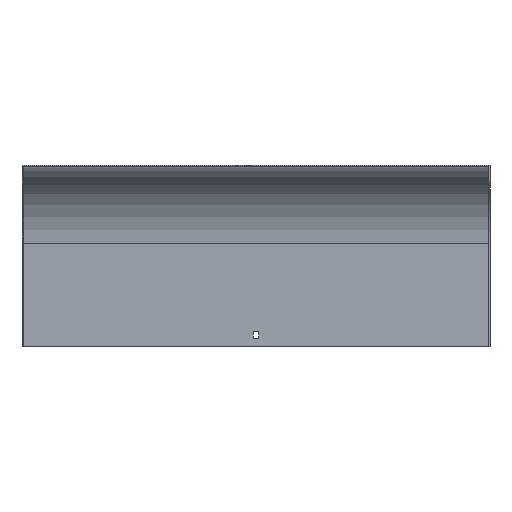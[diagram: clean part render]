
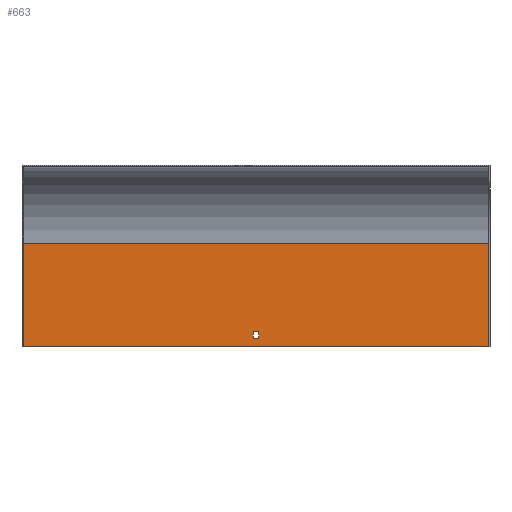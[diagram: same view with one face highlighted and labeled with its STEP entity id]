
A CAD part, top view. The second image highlights one B-rep face of the part: STEP entity #663.
In plain terms, the highlighted planar face has unit normal (0, 0, 1).
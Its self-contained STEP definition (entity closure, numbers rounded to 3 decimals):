
#19 = EDGE_CURVE ( 'NONE', #173, #298, #614, .T. ) ;
#28 = CARTESIAN_POINT ( 'NONE',  ( 303.5, -101.5, -234. ) ) ;
#31 = VECTOR ( 'NONE', #218, 1000. ) ;
#42 = CARTESIAN_POINT ( 'NONE',  ( -302., -101.5, -234. ) ) ;
#45 = EDGE_CURVE ( 'NONE', #81, #298, #508, .T. ) ;
#66 = ORIENTED_EDGE ( 'NONE', *, *, #731, .T. ) ;
#68 = LINE ( 'NONE', #362, #31 ) ;
#71 = CARTESIAN_POINT ( 'NONE',  ( 303.5, -235.5, -234. ) ) ;
#72 = CARTESIAN_POINT ( 'NONE',  ( -3.25, -101.5, -234. ) ) ;
#81 = VERTEX_POINT ( 'NONE', #179 ) ;
#89 = CARTESIAN_POINT ( 'NONE',  ( 303.5, -215.5, -234. ) ) ;
#124 = FACE_BOUND ( 'NONE', #243, .T. ) ;
#137 = VECTOR ( 'NONE', #546, 1000. ) ;
#154 = CARTESIAN_POINT ( 'NONE',  ( 3.25, -224.5, -234. ) ) ;
#169 = AXIS2_PLACEMENT_3D ( 'NONE', #246, #326, #860 ) ;
#173 = VERTEX_POINT ( 'NONE', #469 ) ;
#179 = CARTESIAN_POINT ( 'NONE',  ( -302., -235.5, -234. ) ) ;
#180 = EDGE_CURVE ( 'NONE', #219, #285, #400, .T. ) ;
#189 = DIRECTION ( 'NONE',  ( 0., 1., 0. ) ) ;
#213 = VECTOR ( 'NONE', #260, 1000. ) ;
#218 = DIRECTION ( 'NONE',  ( 0., 1., 0. ) ) ;
#219 = VERTEX_POINT ( 'NONE', #863 ) ;
#223 = ORIENTED_EDGE ( 'NONE', *, *, #180, .T. ) ;
#243 = EDGE_LOOP ( 'NONE', ( #66, #223, #786, #429 ) ) ;
#246 = CARTESIAN_POINT ( 'NONE',  ( 303.5, -101.5, -234. ) ) ;
#260 = DIRECTION ( 'NONE',  ( -1., 0., 0. ) ) ;
#282 = EDGE_CURVE ( 'NONE', #407, #173, #68, .T. ) ;
#283 = VERTEX_POINT ( 'NONE', #154 ) ;
#285 = VERTEX_POINT ( 'NONE', #673 ) ;
#287 = LINE ( 'NONE', #89, #137 ) ;
#298 = VERTEX_POINT ( 'NONE', #427 ) ;
#326 = DIRECTION ( 'NONE',  ( 0., 0., 1. ) ) ;
#336 = EDGE_LOOP ( 'NONE', ( #741, #478, #794, #350 ) ) ;
#350 = ORIENTED_EDGE ( 'NONE', *, *, #19, .T. ) ;
#362 = CARTESIAN_POINT ( 'NONE',  ( 302., -101.5, -234. ) ) ;
#392 = EDGE_CURVE ( 'NONE', #285, #562, #287, .T. ) ;
#400 = LINE ( 'NONE', #72, #841 ) ;
#407 = VERTEX_POINT ( 'NONE', #811 ) ;
#427 = CARTESIAN_POINT ( 'NONE',  ( -302., -101.5, -234. ) ) ;
#429 = ORIENTED_EDGE ( 'NONE', *, *, #671, .T. ) ;
#455 = LINE ( 'NONE', #718, #213 ) ;
#462 = VECTOR ( 'NONE', #467, 1000. ) ;
#464 = FACE_OUTER_BOUND ( 'NONE', #336, .T. ) ;
#467 = DIRECTION ( 'NONE',  ( 0., -1., 0. ) ) ;
#468 = VECTOR ( 'NONE', #189, 1000. ) ;
#469 = CARTESIAN_POINT ( 'NONE',  ( 302., -101.5, -234. ) ) ;
#478 = ORIENTED_EDGE ( 'NONE', *, *, #625, .F. ) ;
#508 = LINE ( 'NONE', #42, #468 ) ;
#535 = PLANE ( 'NONE',  #169 ) ;
#538 = VECTOR ( 'NONE', #717, 1000. ) ;
#546 = DIRECTION ( 'NONE',  ( 1., 0., 0. ) ) ;
#562 = VERTEX_POINT ( 'NONE', #672 ) ;
#589 = LINE ( 'NONE', #71, #852 ) ;
#614 = LINE ( 'NONE', #28, #538 ) ;
#625 = EDGE_CURVE ( 'NONE', #407, #81, #589, .T. ) ;
#658 = LINE ( 'NONE', #662, #462 ) ;
#662 = CARTESIAN_POINT ( 'NONE',  ( 3.25, -101.5, -234. ) ) ;
#663 = ADVANCED_FACE ( 'NONE', ( #464, #124 ), #535, .T. ) ;
#668 = DIRECTION ( 'NONE',  ( 0., 1., 0. ) ) ;
#671 = EDGE_CURVE ( 'NONE', #562, #283, #658, .T. ) ;
#672 = CARTESIAN_POINT ( 'NONE',  ( 3.25, -215.5, -234. ) ) ;
#673 = CARTESIAN_POINT ( 'NONE',  ( -3.25, -215.5, -234. ) ) ;
#717 = DIRECTION ( 'NONE',  ( -1., 0., 0. ) ) ;
#718 = CARTESIAN_POINT ( 'NONE',  ( 303.5, -224.5, -234. ) ) ;
#731 = EDGE_CURVE ( 'NONE', #283, #219, #455, .T. ) ;
#741 = ORIENTED_EDGE ( 'NONE', *, *, #45, .F. ) ;
#786 = ORIENTED_EDGE ( 'NONE', *, *, #392, .T. ) ;
#794 = ORIENTED_EDGE ( 'NONE', *, *, #282, .T. ) ;
#811 = CARTESIAN_POINT ( 'NONE',  ( 302., -235.5, -234. ) ) ;
#841 = VECTOR ( 'NONE', #668, 1000. ) ;
#848 = DIRECTION ( 'NONE',  ( -1., 0., 0. ) ) ;
#852 = VECTOR ( 'NONE', #848, 1000. ) ;
#860 = DIRECTION ( 'NONE',  ( 1., 0., 0. ) ) ;
#863 = CARTESIAN_POINT ( 'NONE',  ( -3.25, -224.5, -234. ) ) ;
